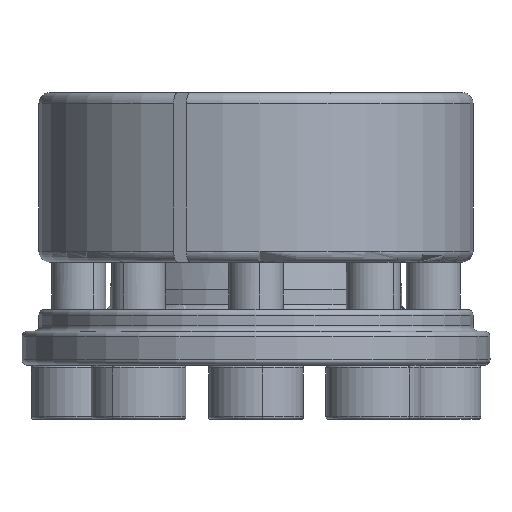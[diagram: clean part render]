
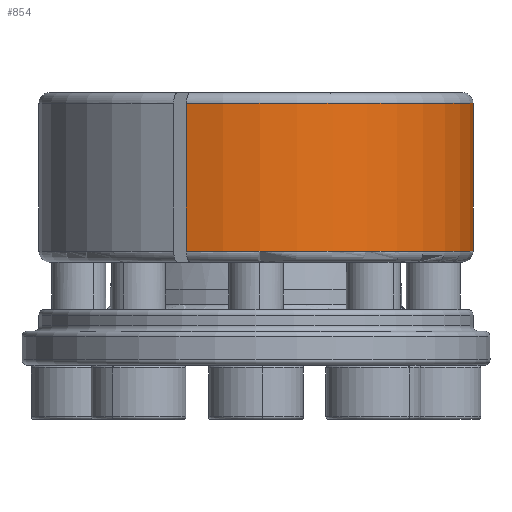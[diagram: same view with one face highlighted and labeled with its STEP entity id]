
A CAD part, front view. The second image highlights one B-rep face of the part: STEP entity #854.
In plain terms, the highlighted cylindrical face has radius 16 mm (diameter 32 mm), a partial arc.
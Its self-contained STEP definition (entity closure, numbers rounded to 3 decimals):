
#854 = ADVANCED_FACE ( 'NONE', ( #6893 ), #6895, .T. ) ;
#1121 = VERTEX_POINT ( 'NONE', #7178 ) ;
#1139 = VERTEX_POINT ( 'NONE', #7084 ) ;
#1140 = VERTEX_POINT ( 'NONE', #7081 ) ;
#1143 = VERTEX_POINT ( 'NONE', #7070 ) ;
#1616 = ORIENTED_EDGE ( 'NONE', *, *, #3095, .T. ) ;
#1617 = ORIENTED_EDGE ( 'NONE', *, *, #3093, .T. ) ;
#1618 = ORIENTED_EDGE ( 'NONE', *, *, #3038, .F. ) ;
#1619 = ORIENTED_EDGE ( 'NONE', *, *, #3082, .T. ) ;
#3038 = EDGE_CURVE ( 'NONE', #1143, #1140, #8191, .T. ) ;
#3082 = EDGE_CURVE ( 'NONE', #1143, #1121, #8231, .T. ) ;
#3093 = EDGE_CURVE ( 'NONE', #1139, #1140, #8239, .T. ) ;
#3095 = EDGE_CURVE ( 'NONE', #1121, #1139, #8244, .T. ) ;
#3222 = EDGE_LOOP ( 'NONE', ( #1616, #1617, #1618, #1619 ) ) ;
#5417 = AXIS2_PLACEMENT_3D ( 'NONE', #11171, #11193, #11198 ) ;
#6893 = FACE_OUTER_BOUND ( 'NONE', #3222, .T. ) ;
#6895 = CYLINDRICAL_SURFACE ( 'NONE', #5417, 16. ) ;
#7070 = CARTESIAN_POINT ( 'NONE',  ( -5.132, -15.154, -0.8 ) ) ;
#7081 = CARTESIAN_POINT ( 'NONE',  ( 16., 0., -0.8 ) ) ;
#7084 = CARTESIAN_POINT ( 'NONE',  ( 16., 0., -11.7 ) ) ;
#7178 = CARTESIAN_POINT ( 'NONE',  ( -5.132, -15.154, -11.7 ) ) ;
#7815 = AXIS2_PLACEMENT_3D ( 'NONE', #8862, #8863, #8864 ) ;
#7847 = AXIS2_PLACEMENT_3D ( 'NONE', #9111, #9112, #9113 ) ;
#8191 = CIRCLE ( 'NONE', #7815, 16. ) ;
#8231 = LINE ( 'NONE', #9071, #8232 ) ;
#8232 = VECTOR ( 'NONE', #9072, 1000. ) ;
#8239 = LINE ( 'NONE', #9106, #8243 ) ;
#8243 = VECTOR ( 'NONE', #9107, 1000. ) ;
#8244 = CIRCLE ( 'NONE', #7847, 16. ) ;
#8862 = CARTESIAN_POINT ( 'NONE',  ( 0., 0., -0.8 ) ) ;
#8863 = DIRECTION ( 'NONE',  ( 0., 0., 1. ) ) ;
#8864 = DIRECTION ( 'NONE',  ( 1., 0., 0. ) ) ;
#9071 = CARTESIAN_POINT ( 'NONE',  ( -5.132, -15.154, 1. ) ) ;
#9072 = DIRECTION ( 'NONE',  ( 0., 0., -1. ) ) ;
#9106 = CARTESIAN_POINT ( 'NONE',  ( 16., 0., 1. ) ) ;
#9107 = DIRECTION ( 'NONE',  ( 0., 0., 1. ) ) ;
#9111 = CARTESIAN_POINT ( 'NONE',  ( 0., 0., -11.7 ) ) ;
#9112 = DIRECTION ( 'NONE',  ( 0., 0., 1. ) ) ;
#9113 = DIRECTION ( 'NONE',  ( 1., 0., 0. ) ) ;
#11171 = CARTESIAN_POINT ( 'NONE',  ( 0., 0., 1. ) ) ;
#11193 = DIRECTION ( 'NONE',  ( 0., 0., 1. ) ) ;
#11198 = DIRECTION ( 'NONE',  ( 1., 0., 0. ) ) ;
